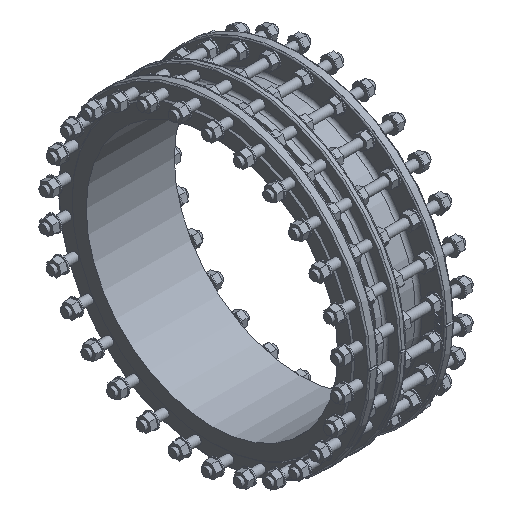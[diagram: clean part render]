
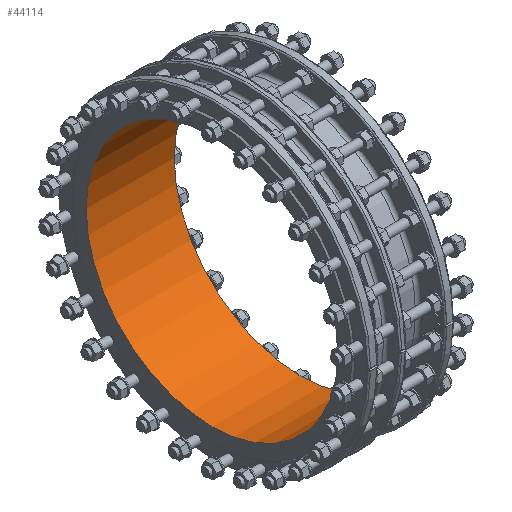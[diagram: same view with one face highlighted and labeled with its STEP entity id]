
A CAD part, isometric view. The second image highlights one B-rep face of the part: STEP entity #44114.
In plain terms, the highlighted cylindrical face has radius 450 mm (diameter 900 mm), a full revolution.
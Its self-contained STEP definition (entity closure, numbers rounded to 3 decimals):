
#707 = EDGE_CURVE ( 'NONE', #9093, #9093, #34889, .T. ) ;
#956 = DIRECTION ( 'NONE',  ( -1., 0., 0. ) ) ;
#2337 = EDGE_LOOP ( 'NONE', ( #8671 ) ) ;
#2748 = VERTEX_POINT ( 'NONE', #17473 ) ;
#4071 = AXIS2_PLACEMENT_3D ( 'NONE', #22715, #956, #7981 ) ;
#5948 = CARTESIAN_POINT ( 'NONE',  ( 244., 0., 450. ) ) ;
#6140 = AXIS2_PLACEMENT_3D ( 'NONE', #13430, #46019, #12947 ) ;
#7981 = DIRECTION ( 'NONE',  ( 0., 0., 1. ) ) ;
#8671 = ORIENTED_EDGE ( 'NONE', *, *, #707, .F. ) ;
#9093 = VERTEX_POINT ( 'NONE', #5948 ) ;
#10020 = ORIENTED_EDGE ( 'NONE', *, *, #13166, .F. ) ;
#12947 = DIRECTION ( 'NONE',  ( 0., 0., -1. ) ) ;
#13166 = EDGE_CURVE ( 'NONE', #2748, #2748, #21575, .T. ) ;
#13430 = CARTESIAN_POINT ( 'NONE',  ( -71., 0., 0. ) ) ;
#13534 = EDGE_LOOP ( 'NONE', ( #10020 ) ) ;
#14756 = CARTESIAN_POINT ( 'NONE',  ( 0., 0., 0. ) ) ;
#17473 = CARTESIAN_POINT ( 'NONE',  ( -71., 0., -450. ) ) ;
#17800 = AXIS2_PLACEMENT_3D ( 'NONE', #14756, #29502, #18863 ) ;
#18863 = DIRECTION ( 'NONE',  ( 0., 0., 1. ) ) ;
#21575 = CIRCLE ( 'NONE', #6140, 450. ) ;
#22715 = CARTESIAN_POINT ( 'NONE',  ( 244., 0., 0. ) ) ;
#29257 = FACE_OUTER_BOUND ( 'NONE', #2337, .T. ) ;
#29502 = DIRECTION ( 'NONE',  ( -1., 0., 0. ) ) ;
#34889 = CIRCLE ( 'NONE', #4071, 450. ) ;
#44114 = ADVANCED_FACE ( 'NONE', ( #29257, #44450 ), #44220, .F. ) ;
#44220 = CYLINDRICAL_SURFACE ( 'NONE', #17800, 450. ) ;
#44450 = FACE_OUTER_BOUND ( 'NONE', #13534, .T. ) ;
#46019 = DIRECTION ( 'NONE',  ( 1., 0., 0. ) ) ;
